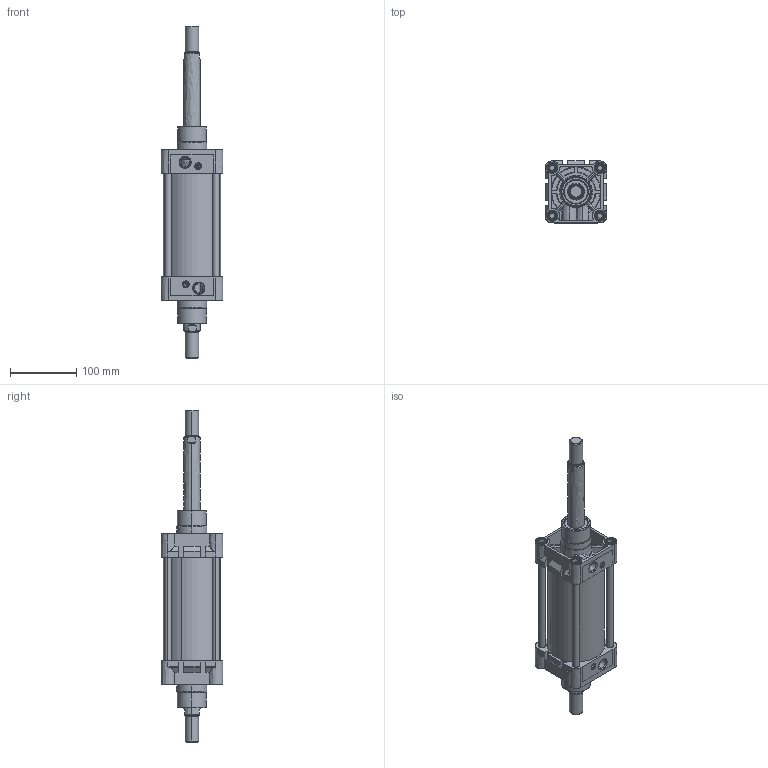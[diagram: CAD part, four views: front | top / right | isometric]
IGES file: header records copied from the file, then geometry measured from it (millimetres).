
Start section: SolidWorks IGES file using analytic representation for surfaces
Global section: file name: D:\ARICA 3D 禽Z軲LER\3D IGES\TDNC 禽FT M軱L輁TDNC80\TDNC80X100CIFTMILLI-CYLINDER.IGS; native system: SolidWorks 2013; preprocessor: SolidWorks 2013; author: user; date: 150328.125839; units: millimetre
Bounding box: 93 x 93.3 x 500 mm (x, y, z)
Surface area: 370255.5 mm2 (no closed solid volume)
Topology: 0 solids, 0 shells, 1331 faces, 20919 edges, 20907 vertices
Faces by surface type: revolution 717, bspline 614
